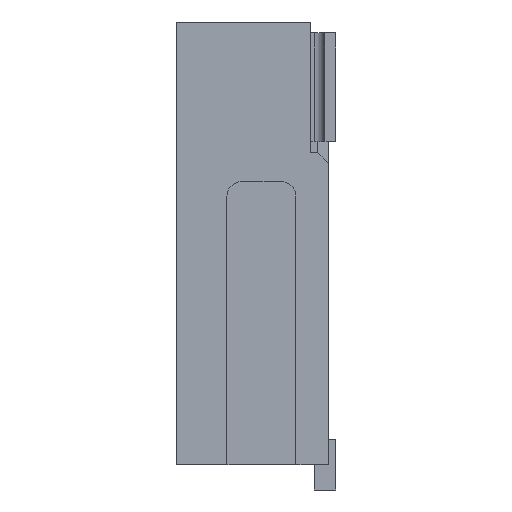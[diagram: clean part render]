
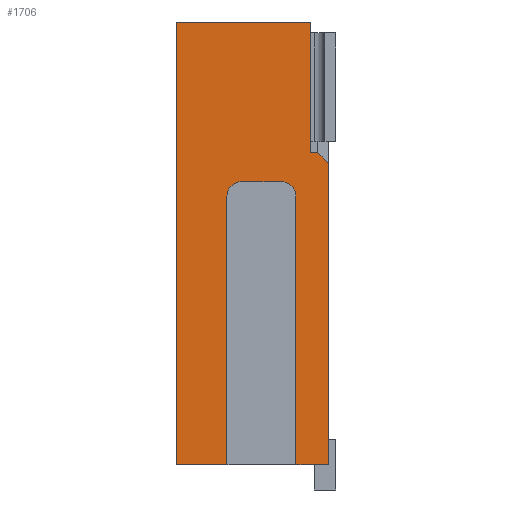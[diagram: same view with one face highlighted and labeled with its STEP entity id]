
A CAD part, left-side view. The second image highlights one B-rep face of the part: STEP entity #1706.
In plain terms, the highlighted planar face has unit normal (-1, 0, 0).
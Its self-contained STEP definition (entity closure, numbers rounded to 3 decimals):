
#96 = VERTEX_POINT ( 'NONE', #9426 ) ;
#147 = VECTOR ( 'NONE', #874, 1000. ) ;
#155 = LINE ( 'NONE', #4005, #7397 ) ;
#248 = ORIENTED_EDGE ( 'NONE', *, *, #5980, .T. ) ;
#282 = CARTESIAN_POINT ( 'NONE',  ( -5.367, -0.824, 1.25 ) ) ;
#399 = CARTESIAN_POINT ( 'NONE',  ( -5.367, -0.524, 0.85 ) ) ;
#560 = DIRECTION ( 'NONE',  ( 1., 0., 0. ) ) ;
#621 = LINE ( 'NONE', #7792, #1821 ) ;
#770 = CARTESIAN_POINT ( 'NONE',  ( -5.367, -0.324, 0.65 ) ) ;
#874 = DIRECTION ( 'NONE',  ( 0., 0., -1. ) ) ;
#975 = LINE ( 'NONE', #7218, #147 ) ;
#1132 = EDGE_CURVE ( 'NONE', #96, #2339, #6655, .T. ) ;
#1165 = VECTOR ( 'NONE', #2810, 1000. ) ;
#1452 = ORIENTED_EDGE ( 'NONE', *, *, #6889, .T. ) ;
#1706 = ADVANCED_FACE ( 'NONE', ( #3784 ), #2901, .F. ) ;
#1799 = VERTEX_POINT ( 'NONE', #8916 ) ;
#1821 = VECTOR ( 'NONE', #7694, 1000. ) ;
#1919 = CIRCLE ( 'NONE', #3069, 0.2 ) ;
#1955 = LINE ( 'NONE', #399, #8786 ) ;
#2276 = CARTESIAN_POINT ( 'NONE',  ( -5.367, 0.426, 0.65 ) ) ;
#2339 = VERTEX_POINT ( 'NONE', #282 ) ;
#2662 = DIRECTION ( 'NONE',  ( 1., 0., 0. ) ) ;
#2810 = DIRECTION ( 'NONE',  ( 0., 0., 1. ) ) ;
#2876 = LINE ( 'NONE', #6238, #5153 ) ;
#2901 = PLANE ( 'NONE',  #7335 ) ;
#3003 = VERTEX_POINT ( 'NONE', #6423 ) ;
#3027 = VERTEX_POINT ( 'NONE', #4092 ) ;
#3069 = AXIS2_PLACEMENT_3D ( 'NONE', #770, #8834, #6330 ) ;
#3117 = CARTESIAN_POINT ( 'NONE',  ( -5.367, 0.426, -3.05 ) ) ;
#3150 = EDGE_CURVE ( 'NONE', #5259, #4059, #1955, .T. ) ;
#3159 = CARTESIAN_POINT ( 'NONE',  ( -5.367, -0.974, 3.05 ) ) ;
#3206 = AXIS2_PLACEMENT_3D ( 'NONE', #6605, #2662, #8168 ) ;
#3220 = VECTOR ( 'NONE', #4326, 1000. ) ;
#3674 = EDGE_CURVE ( 'NONE', #3003, #4846, #2876, .T. ) ;
#3727 = LINE ( 'NONE', #10013, #10190 ) ;
#3784 = FACE_OUTER_BOUND ( 'NONE', #8279, .T. ) ;
#3899 = DIRECTION ( 'NONE',  ( 0., -1., 0. ) ) ;
#3996 = EDGE_CURVE ( 'NONE', #1799, #3003, #621, .T. ) ;
#4005 = CARTESIAN_POINT ( 'NONE',  ( -5.367, 1.126, 3.05 ) ) ;
#4059 = VERTEX_POINT ( 'NONE', #5981 ) ;
#4092 = CARTESIAN_POINT ( 'NONE',  ( -5.367, -0.974, -3.05 ) ) ;
#4096 = ORIENTED_EDGE ( 'NONE', *, *, #7931, .T. ) ;
#4172 = VERTEX_POINT ( 'NONE', #6329 ) ;
#4326 = DIRECTION ( 'NONE',  ( 0., -1., 0. ) ) ;
#4473 = ORIENTED_EDGE ( 'NONE', *, *, #3150, .F. ) ;
#4596 = ORIENTED_EDGE ( 'NONE', *, *, #6021, .F. ) ;
#4652 = ORIENTED_EDGE ( 'NONE', *, *, #1132, .F. ) ;
#4846 = VERTEX_POINT ( 'NONE', #3117 ) ;
#4878 = VERTEX_POINT ( 'NONE', #9270 ) ;
#4937 = ORIENTED_EDGE ( 'NONE', *, *, #3674, .T. ) ;
#5153 = VECTOR ( 'NONE', #6883, 1000. ) ;
#5179 = DIRECTION ( 'NONE',  ( 0., 1., 0. ) ) ;
#5206 = EDGE_CURVE ( 'NONE', #7208, #4846, #975, .T. ) ;
#5259 = VERTEX_POINT ( 'NONE', #7320 ) ;
#5669 = CARTESIAN_POINT ( 'NONE',  ( -5.367, -0.974, 1.25 ) ) ;
#5980 = EDGE_CURVE ( 'NONE', #96, #4878, #9985, .T. ) ;
#5981 = CARTESIAN_POINT ( 'NONE',  ( -5.367, 0.226, 0.85 ) ) ;
#6021 = EDGE_CURVE ( 'NONE', #8147, #3027, #6436, .T. ) ;
#6108 = VERTEX_POINT ( 'NONE', #7891 ) ;
#6238 = CARTESIAN_POINT ( 'NONE',  ( -5.367, 1.126, -3.05 ) ) ;
#6329 = CARTESIAN_POINT ( 'NONE',  ( -5.367, -0.524, 0.65 ) ) ;
#6330 = DIRECTION ( 'NONE',  ( 0., 0., -1. ) ) ;
#6423 = CARTESIAN_POINT ( 'NONE',  ( -5.367, 1.126, -3.05 ) ) ;
#6436 = LINE ( 'NONE', #3159, #10277 ) ;
#6452 = ORIENTED_EDGE ( 'NONE', *, *, #5206, .F. ) ;
#6565 = VECTOR ( 'NONE', #6942, 1000. ) ;
#6605 = CARTESIAN_POINT ( 'NONE',  ( -5.367, 0.226, 0.65 ) ) ;
#6612 = LINE ( 'NONE', #9732, #8676 ) ;
#6614 = ORIENTED_EDGE ( 'NONE', *, *, #7306, .T. ) ;
#6655 = LINE ( 'NONE', #5669, #3220 ) ;
#6679 = CARTESIAN_POINT ( 'NONE',  ( -5.367, -0.974, 1.1 ) ) ;
#6743 = DIRECTION ( 'NONE',  ( 0., -1., 0. ) ) ;
#6883 = DIRECTION ( 'NONE',  ( 0., -1., 0. ) ) ;
#6889 = EDGE_CURVE ( 'NONE', #8147, #2339, #7917, .T. ) ;
#6942 = DIRECTION ( 'NONE',  ( 0., 0.707, 0.707 ) ) ;
#6948 = CARTESIAN_POINT ( 'NONE',  ( -5.367, 1.126, 3.05 ) ) ;
#6982 = ORIENTED_EDGE ( 'NONE', *, *, #3996, .T. ) ;
#7208 = VERTEX_POINT ( 'NONE', #2276 ) ;
#7218 = CARTESIAN_POINT ( 'NONE',  ( -5.367, 0.426, 0.85 ) ) ;
#7235 = EDGE_CURVE ( 'NONE', #1799, #4878, #155, .T. ) ;
#7306 = EDGE_CURVE ( 'NONE', #5259, #4172, #1919, .T. ) ;
#7320 = CARTESIAN_POINT ( 'NONE',  ( -5.367, -0.324, 0.85 ) ) ;
#7335 = AXIS2_PLACEMENT_3D ( 'NONE', #6948, #560, #7772 ) ;
#7397 = VECTOR ( 'NONE', #3899, 1000. ) ;
#7694 = DIRECTION ( 'NONE',  ( 0., 0., -1. ) ) ;
#7772 = DIRECTION ( 'NONE',  ( 0., 1., 0. ) ) ;
#7792 = CARTESIAN_POINT ( 'NONE',  ( -5.367, 1.126, 3.05 ) ) ;
#7891 = CARTESIAN_POINT ( 'NONE',  ( -5.367, -0.524, -3.05 ) ) ;
#7917 = LINE ( 'NONE', #8700, #6565 ) ;
#7931 = EDGE_CURVE ( 'NONE', #6108, #3027, #3727, .T. ) ;
#8147 = VERTEX_POINT ( 'NONE', #6679 ) ;
#8168 = DIRECTION ( 'NONE',  ( 0., 0., -1. ) ) ;
#8258 = ORIENTED_EDGE ( 'NONE', *, *, #9513, .F. ) ;
#8279 = EDGE_LOOP ( 'NONE', ( #4937, #6452, #9676, #4473, #6614, #8258, #4096, #4596, #1452, #4652, #248, #9423, #6982 ) ) ;
#8505 = EDGE_CURVE ( 'NONE', #7208, #4059, #9199, .T. ) ;
#8620 = DIRECTION ( 'NONE',  ( 0., 0., -1. ) ) ;
#8676 = VECTOR ( 'NONE', #9678, 1000. ) ;
#8700 = CARTESIAN_POINT ( 'NONE',  ( -5.367, -0.824, 1.25 ) ) ;
#8786 = VECTOR ( 'NONE', #5179, 1000. ) ;
#8834 = DIRECTION ( 'NONE',  ( 1., 0., 0. ) ) ;
#8916 = CARTESIAN_POINT ( 'NONE',  ( -5.367, 1.126, 3.05 ) ) ;
#9199 = CIRCLE ( 'NONE', #3206, 0.2 ) ;
#9270 = CARTESIAN_POINT ( 'NONE',  ( -5.367, -0.724, 3.05 ) ) ;
#9423 = ORIENTED_EDGE ( 'NONE', *, *, #7235, .F. ) ;
#9426 = CARTESIAN_POINT ( 'NONE',  ( -5.367, -0.724, 1.25 ) ) ;
#9513 = EDGE_CURVE ( 'NONE', #6108, #4172, #6612, .T. ) ;
#9676 = ORIENTED_EDGE ( 'NONE', *, *, #8505, .T. ) ;
#9678 = DIRECTION ( 'NONE',  ( 0., 0., 1. ) ) ;
#9732 = CARTESIAN_POINT ( 'NONE',  ( -5.367, -0.524, -3.05 ) ) ;
#9985 = LINE ( 'NONE', #10038, #1165 ) ;
#10013 = CARTESIAN_POINT ( 'NONE',  ( -5.367, 1.126, -3.05 ) ) ;
#10038 = CARTESIAN_POINT ( 'NONE',  ( -5.367, -0.724, 1.25 ) ) ;
#10190 = VECTOR ( 'NONE', #6743, 1000. ) ;
#10277 = VECTOR ( 'NONE', #8620, 1000. ) ;
